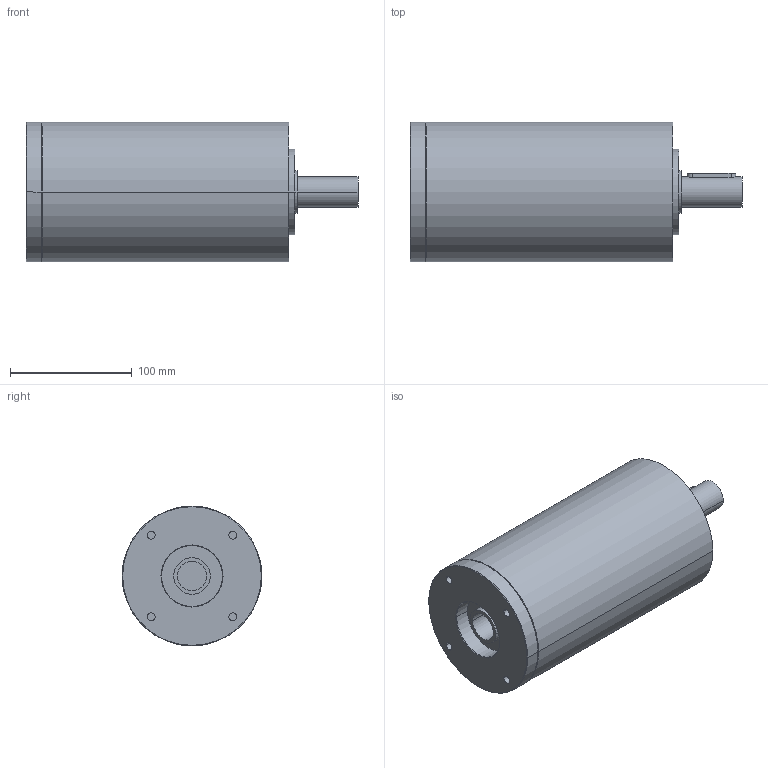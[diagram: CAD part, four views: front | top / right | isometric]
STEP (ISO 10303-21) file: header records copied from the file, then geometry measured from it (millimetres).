
FILE_DESCRIPTION(('CoCreate Modeling STEP Export'),'2;1');
FILE_NAME('GPR125_ig-48-64-80-100-140-196-245-343_25_B14_24_P19.stp','2014-08-26T14:22:37',(''),(''),'CoCreate Modeling STEP processor for AP214 (Solid Model)','CoCreate Modeling 16.00C 25-Feb-2009 (C) Parametric Technology GmbH','');
FILE_SCHEMA(('AUTOMOTIVE_DESIGN { 1 0 10303 214 1 1 1 1 }'));
Length unit declared in the file: millimetre
Products named in the file (2): GPR125_ig-48-64-80-100-140-196-245-343_25_B14_24_P19
Assembly tree (1 placements, depth 2):
  GPR125_ig-48-64-80-100-140-196-245-343_25_B14_24_P19
    GPR125_ig-48-64-80-100-140-196-245-343_25_B14_24_P19
Bounding box: 273 x 115 x 115 mm (x, y, z)
Volume: 2237323.8 mm3; surface area: 115038.9 mm2
Topology: 1 solids, 1 shells, 66 faces, 164 edges, 114 vertices
Faces by surface type: cylinder 36, plane 20, cone 10
Entity records: 1675 total; most frequent: ORIENTED_EDGE 324, CARTESIAN_POINT 316, DIRECTION 216, EDGE_CURVE 162, VERTEX_POINT 114, AXIS2_PLACEMENT_3D 82, EDGE_LOOP 82, FACE_OUTER_BOUND 66
